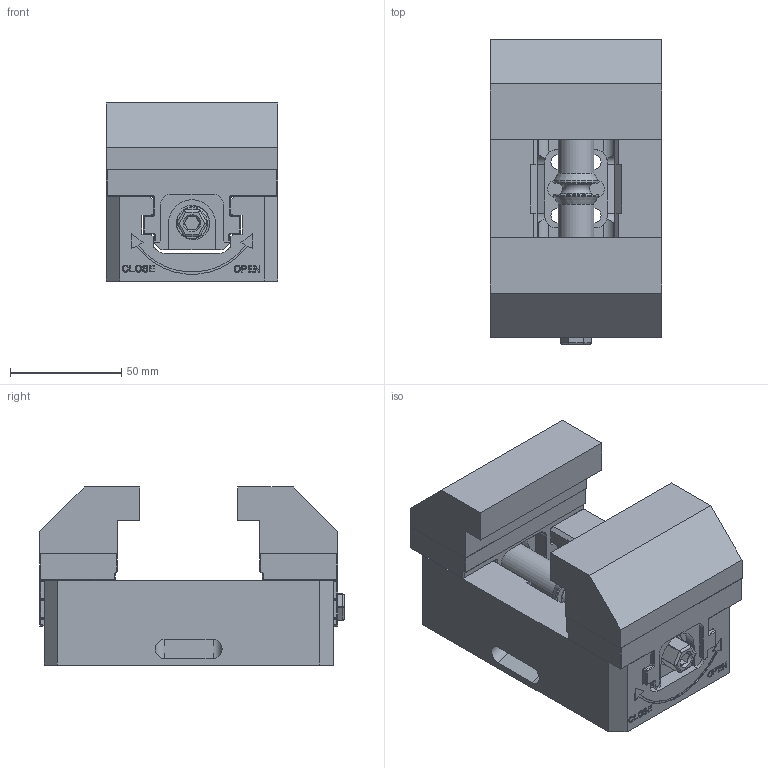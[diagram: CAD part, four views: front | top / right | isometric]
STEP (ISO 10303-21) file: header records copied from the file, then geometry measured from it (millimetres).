
FILE_DESCRIPTION(/* description */ (''),/* implementation_level */ '2;1');
FILE_NAME(/* name */ '',/* time_stamp */ '2021-03-30T14:43:29+08:00',/* author */ (''),/* organization */ (''),/* preprocessor_version */ 'ST-DEVELOPER v11',/* originating_system */ 'SIEMENS PLM Software NX 7.0',/* authorisation */ '');
FILE_SCHEMA (('CONFIG_CONTROL_DESIGN'));
Length unit declared in the file: millimetre
Products named in the file (1): Admi0ED1rr1s
Bounding box: 77 x 137 x 80 mm (x, y, z)
Volume: 492695.8 mm3; surface area: 113143.8 mm2
Topology: 6 solids, 6 shells, 641 faces, 1622 edges, 1039 vertices
Faces by surface type: plane 414, cylinder 140, cone 50, extrusion 18, bspline 16, torus 3
Full cylindrical faces by diameter (mm): 4.5 x2, 5 x10, 6 x8, 6.5 x13, 6.7 x4, 8 x14, 10.5 x8, 11 x5, 14 x2, 16 x2, 20 x2
Entity records: 21928 total; most frequent: CARTESIAN_POINT 7138, DIRECTION 2926, ORIENTED_EDGE 2898, EDGE_CURVE 1449, VECTOR 1068, LINE 1050, VERTEX_POINT 991, AXIS2_PLACEMENT_3D 929
